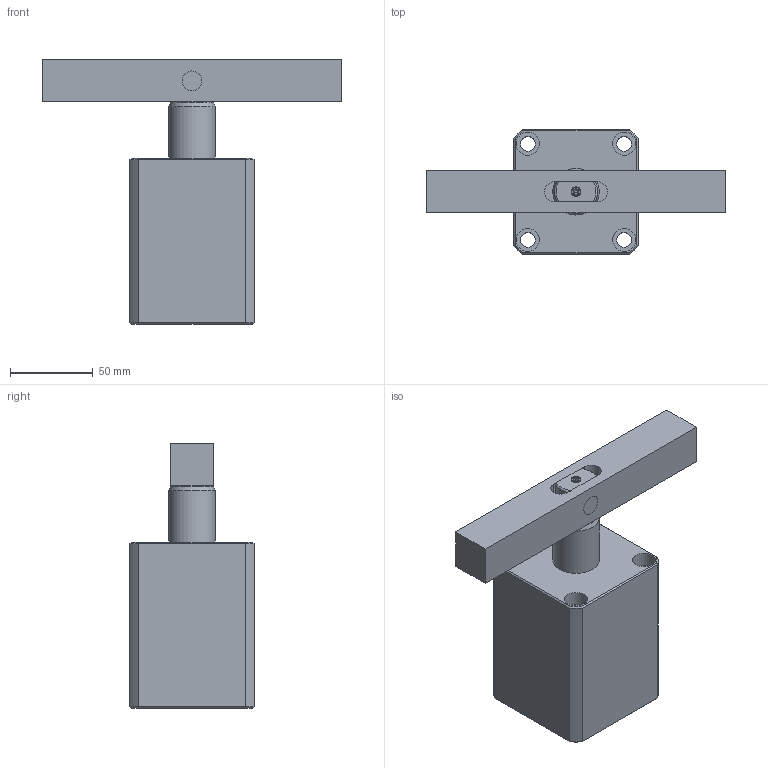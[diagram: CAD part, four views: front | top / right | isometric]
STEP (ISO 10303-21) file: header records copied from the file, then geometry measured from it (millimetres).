
FILE_DESCRIPTION(/* description */ ('Unknown'),/* implementation_level */ '2;1');
FILE_NAME(/* name */ 'HSC-M50D-B',/* time_stamp */ '2019-05-27T15:08:08+08:00',/* author */ ('Unknown'),/* organization */ ('Unknown'),/* preprocessor_version */ 'ST-DEVELOPER v16.7',/* originating_system */ 'DEX',/* authorisation */ $);
FILE_SCHEMA (('AUTOMOTIVE_DESIGN {1 0 10303 214 3 1 1}'));
Length unit declared in the file: millimetre
Products named in the file (5): HSC-M50D-B; HSC-M50D-CYLINDER; HSC-5002-D-AXLE CENTRE; HSC-5002-D-FIXED PIN; HSC-50D-B
Assembly tree (4 placements, depth 2):
  HSC-M50D-B
    HSC-M50D-CYLINDER
    HSC-5002-D-AXLE CENTRE
    HSC-5002-D-FIXED PIN
    HSC-50D-B
Bounding box: 180 x 75 x 159.4 mm (x, y, z)
Volume: 600803.3 mm3; surface area: 102520.5 mm2
Topology: 4 solids, 4 shells, 136 faces, 291 edges, 182 vertices
Faces by surface type: plane 67, cylinder 30, cone 29, bspline 6, torus 4
Full cylindrical faces by diameter (mm): 4.1 x2, 5 x2, 9 x4, 11 x2, 12 x4, 14 x4, 28 x2, 50 x2
Entity records: 3583 total; most frequent: CARTESIAN_POINT 739, DIRECTION 576, ORIENTED_EDGE 470, AXIS2_PLACEMENT_3D 238, EDGE_CURVE 235, FACE_BOUND 212, EDGE_LOOP 210, VERTEX_POINT 167
